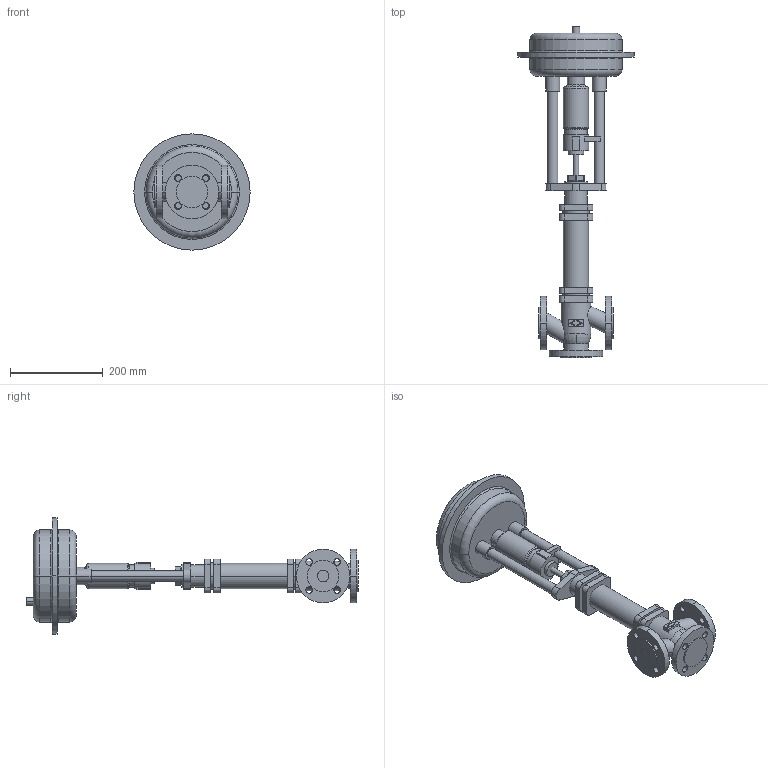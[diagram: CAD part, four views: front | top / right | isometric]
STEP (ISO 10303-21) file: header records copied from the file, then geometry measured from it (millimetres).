
FILE_DESCRIPTION(('OneSpaceDesigner STEP Export'),'2;1');
FILE_NAME('c000000429.stp','2006-09-20T 9:58:29',(''),(''),'OneSpace Designer STEP processor for AP214 (Solid Model)','OneSpace Designer 13.20A 18-Aug-2005 (C) CoCreate Software GmbH','');
FILE_SCHEMA(('AUTOMOTIVE_DESIGN { 1 0 10303 214 1 1 1 1 }'));
Length unit declared in the file: millimetre
Products named in the file (2): 1; 2
Bounding box: 250 x 714 x 250 mm (x, y, z)
Volume: 5197174.4 mm3; surface area: 407716 mm2
Topology: 2 solids, 2 shells, 236 faces, 574 edges, 377 vertices
Faces by surface type: cylinder 114, plane 100, torus 18, cone 4
Entity records: 6436 total; most frequent: CARTESIAN_POINT 1189, ORIENTED_EDGE 1148, DIRECTION 992, EDGE_CURVE 574, VERTEX_POINT 377, AXIS2_PLACEMENT_3D 355, EDGE_LOOP 295, VECTOR 282
